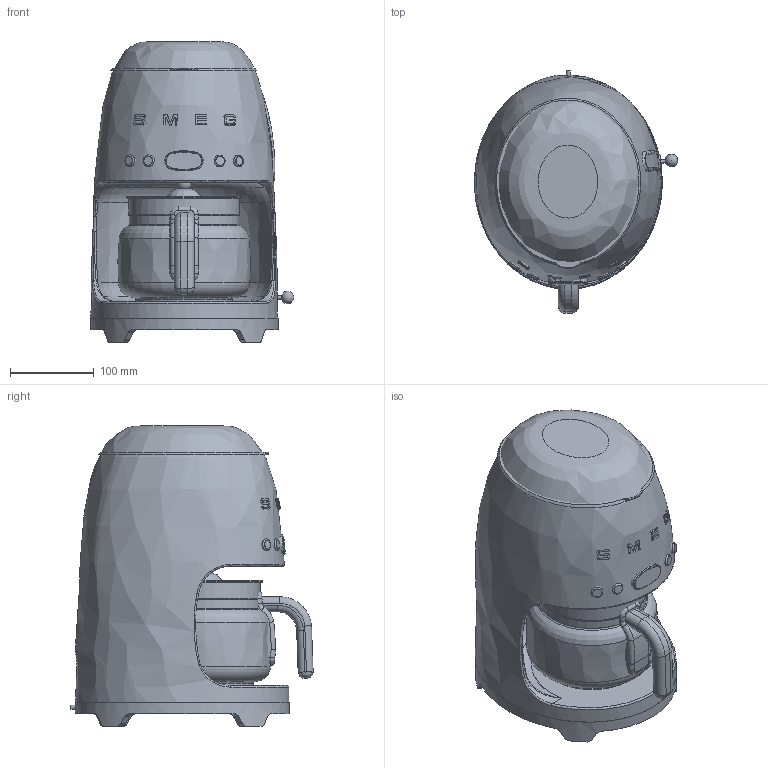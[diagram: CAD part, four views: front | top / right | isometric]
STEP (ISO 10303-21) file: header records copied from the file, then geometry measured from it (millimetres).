
FILE_DESCRIPTION(/* description */ (''),/* implementation_level */ '2;1');
FILE_NAME(/* name */ 'macchina caffe filtro dcf.stp',/* time_stamp */ '2019-04-04T18:03:39+02:00',/* author */ (''),/* organization */ (''),/* preprocessor_version */ 'ST-DEVELOPER v16',/* originating_system */ 'SIEMENS PLM Software NX 11.0',/* authorisation */ '');
FILE_SCHEMA (('AUTOMOTIVE_DESIGN { 1 0 10303 214 3 1 1 1 }'));
Length unit declared in the file: millimetre
Products named in the file (1): gobb1B7CF633fcax
Bounding box: 242.78 x 289.21 x 359 mm (x, y, z)
Volume: 11611708.2 mm3; surface area: 721406.3 mm2
Topology: 29 solids, 29 shells, 444 faces, 1076 edges, 693 vertices
Faces by surface type: plane 158, cylinder 132, bspline 59, torus 50, extrusion 39, sphere 4, cone 2
Full cylindrical faces by diameter (mm): 0.281 x1, 4 x1, 5 x1, 11 x8, 14 x5, 25 x1, 98 x1, 115.436 x1, 117 x2, 123 x1, 130.436 x1, 131.036 x1, 132.036 x1, 136.436 x1, 136.547 x1
Entity records: 16558 total; most frequent: CARTESIAN_POINT 6519, ORIENTED_EDGE 1994, DIRECTION 1957, EDGE_CURVE 997, AXIS2_PLACEMENT_3D 766, VERTEX_POINT 675, EDGE_LOOP 525, ADVANCED_FACE 444
